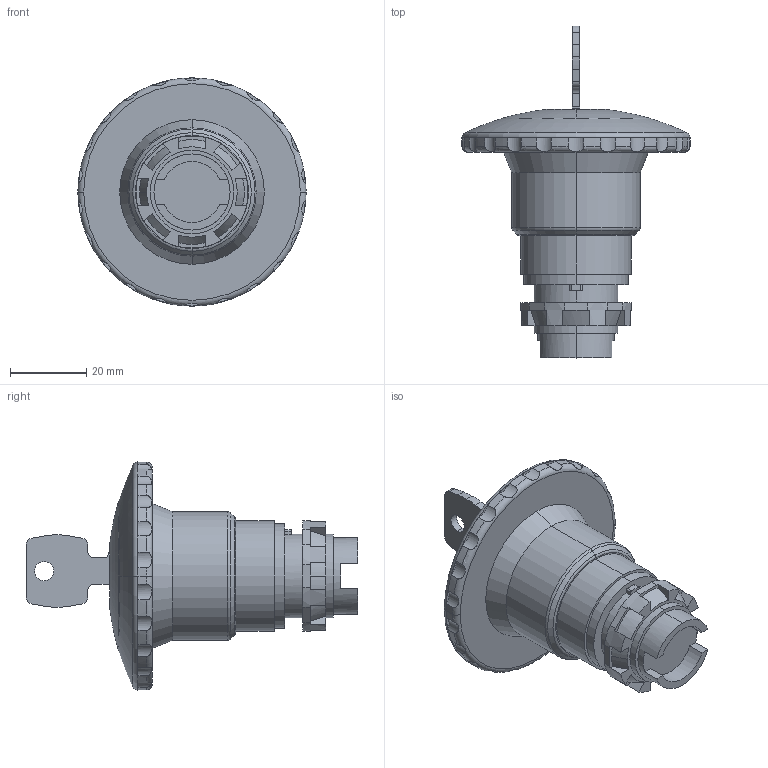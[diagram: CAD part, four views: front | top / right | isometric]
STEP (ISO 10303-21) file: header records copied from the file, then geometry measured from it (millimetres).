
FILE_DESCRIPTION (( 'STEP AP203' ), '1' );
FILE_NAME ('ZF_STEP_E2_xPEBZ6xxx.STEP', '2025-10-24T07:04:25', ( '' ), ( '' ), 'SwSTEP 2.0', 'SolidWorks 2023', '' );
FILE_SCHEMA (( 'CONFIG_CONTROL_DESIGN' ));
Length unit declared in the file: millimetre
Products named in the file (8): Componente_E2_xPExxxxxx_E2_xPEBZ6xxx; Pizzato_Chiave_Serratura_21040; ZF_STEP_E2_xPEBZ6xxx; Corpo_PE; ZF_STEP_VE_GFx2xA; ZF_STEP_VE_GFx2xA_21008; Componente_E2_xPEBZ6xxx
Assembly tree (7 placements, depth 3):
  ZF_STEP_E2_xPEBZ6xxx
    Corpo_PE
      Corpo_PE
    Componente_E2_xPEBZ6xxx
      Componente_E2_xPExxxxxx_E2_xPEBZ6xxx
      Pizzato_Chiave_Serratura_21040
    ZF_STEP_VE_GFx2xA
      ZF_STEP_VE_GFx2xA_21008
Bounding box: 60 x 87.3 x 60 mm (x, y, z)
Volume: 59724.2 mm3; surface area: 15637.2 mm2
Topology: 4 solids, 4 shells, 194 faces, 519 edges, 340 vertices
Faces by surface type: plane 98, cylinder 69, torus 14, cone 13
Entity records: 7477 total; most frequent: CARTESIAN_POINT 1630, DIRECTION 1119, ORIENTED_EDGE 1038, EDGE_CURVE 519, AXIS2_PLACEMENT_3D 435, VERTEX_POINT 340, LINE 249, VECTOR 249
